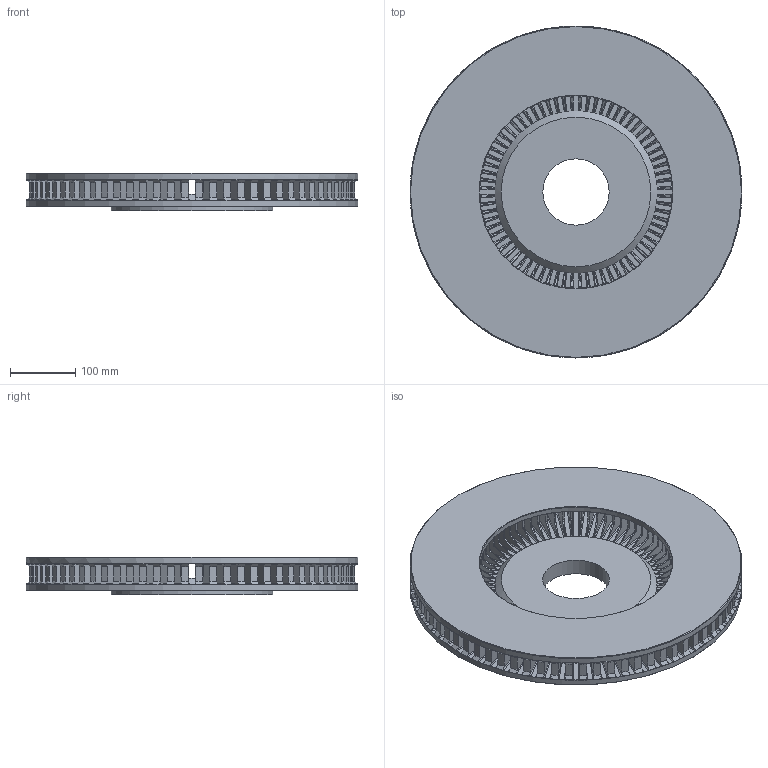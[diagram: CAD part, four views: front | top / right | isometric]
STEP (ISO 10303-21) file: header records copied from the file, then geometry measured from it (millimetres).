
FILE_DESCRIPTION (( 'STEP AP214' ), '1' );
FILE_NAME ('2-4-20.STEP', '2017-11-29T17:08:28', ( '' ), ( '' ), 'SwSTEP 2.0', 'SolidWorks 2017', '' );
FILE_SCHEMA (( 'AUTOMOTIVE_DESIGN' ));
Length unit declared in the file: inch
Products named in the file (1): 2-4-20
Bounding box: 508 x 508 x 57.15 mm (x, y, z)
Volume: 5390735 mm3; surface area: 1098959.8 mm2
Topology: 1 solids, 1 shells, 1024 faces, 3271 edges, 2107 vertices
Faces by surface type: cylinder 437, plane 436, cone 79, torus 72
Full cylindrical faces by diameter (mm): 101.6 x1, 247.65 x1, 295.275 x1, 508 x2
Entity records: 42836 total; most frequent: CARTESIAN_POINT 16613, ORIENTED_EDGE 6508, DIRECTION 4382, EDGE_CURVE 3254, VERTEX_POINT 2102, AXIS2_PLACEMENT_3D 1687, B_SPLINE_CURVE_WITH_KNOTS 1440, EDGE_LOOP 1040
